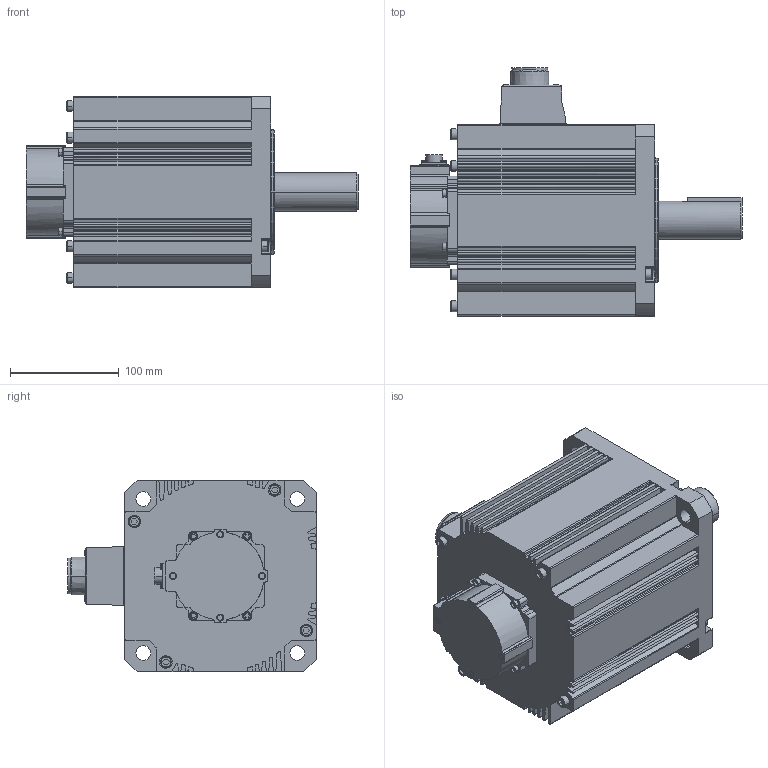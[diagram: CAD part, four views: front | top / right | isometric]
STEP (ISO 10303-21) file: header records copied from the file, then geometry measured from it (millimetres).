
FILE_DESCRIPTION( ( '' ), '1' );
FILE_NAME( '//expscmdclustefs.cadenas.external/client_exchange/iodir/jobs/output/wkb64913741_no0/STEP/MHME304G1G_2_03.stp', '2013-10-30T15:15:00', ( '' ), ( '' ), ' ', ' ', ' ' );
FILE_SCHEMA( ( 'CONFIG_CONTROL_DESIGN' ) );
Length unit declared in the file: millimetre
Products named in the file (1): 1
Bounding box: 305 x 228 x 176 mm (x, y, z)
Volume: 5405752.4 mm3; surface area: 274309.9 mm2
Topology: 1 solids, 1 shells, 669 faces, 1766 edges, 1159 vertices
Faces by surface type: plane 307, cylinder 278, cone 44, torus 32, sphere 8
Entity records: 21243 total; most frequent: CARTESIAN_POINT 3961, DIRECTION 3801, ORIENTED_EDGE 3532, EDGE_CURVE 1766, AXIS2_PLACEMENT_3D 1401, VERTEX_POINT 1159, LINE 999, VECTOR 999
